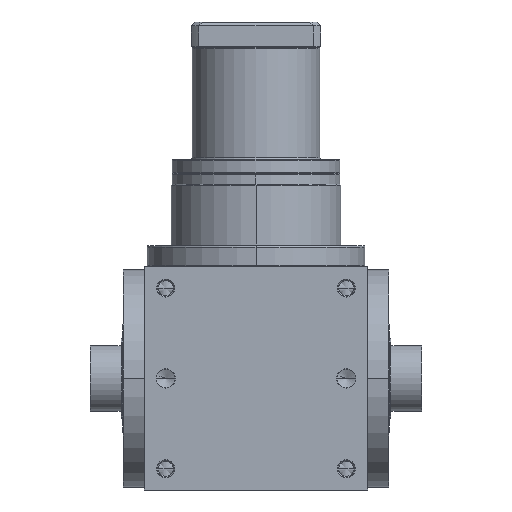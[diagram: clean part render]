
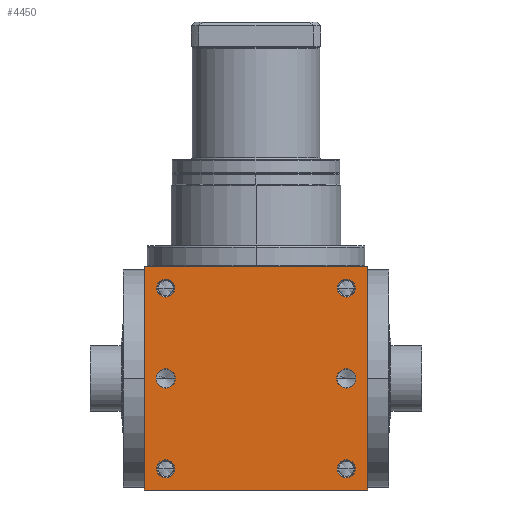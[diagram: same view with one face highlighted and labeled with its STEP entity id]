
A CAD part, front view. The second image highlights one B-rep face of the part: STEP entity #4450.
In plain terms, the highlighted planar face has unit normal (0, -1, 0).
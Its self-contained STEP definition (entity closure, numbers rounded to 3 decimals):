
#5=DIRECTION('',(1.,0.,0.));
#6=VECTOR('',#5,210.);
#7=CARTESIAN_POINT('',(-105.,-105.,-105.));
#8=LINE('',#7,#6);
#155=DIRECTION('',(0.,0.,1.));
#156=VECTOR('',#155,210.);
#157=CARTESIAN_POINT('',(105.,-105.,-105.));
#158=LINE('',#157,#156);
#209=DIRECTION('',(0.,0.,1.));
#210=VECTOR('',#209,210.);
#211=CARTESIAN_POINT('',(-105.,-105.,-105.));
#212=LINE('',#211,#210);
#213=CARTESIAN_POINT('',(85.,-105.,85.));
#214=DIRECTION('',(0.,1.,0.));
#215=DIRECTION('',(-1.,0.,0.));
#216=AXIS2_PLACEMENT_3D('',#213,#214,#215);
#218=CARTESIAN_POINT('',(85.,-105.,85.));
#219=DIRECTION('',(0.,1.,0.));
#220=DIRECTION('',(1.,0.,0.));
#221=AXIS2_PLACEMENT_3D('',#218,#219,#220);
#223=CARTESIAN_POINT('',(-85.,-105.,85.));
#224=DIRECTION('',(0.,1.,0.));
#225=DIRECTION('',(-1.,0.,0.));
#226=AXIS2_PLACEMENT_3D('',#223,#224,#225);
#228=CARTESIAN_POINT('',(-85.,-105.,85.));
#229=DIRECTION('',(0.,1.,0.));
#230=DIRECTION('',(1.,0.,0.));
#231=AXIS2_PLACEMENT_3D('',#228,#229,#230);
#233=CARTESIAN_POINT('',(85.,-105.,-85.));
#234=DIRECTION('',(0.,1.,0.));
#235=DIRECTION('',(-1.,0.,0.));
#236=AXIS2_PLACEMENT_3D('',#233,#234,#235);
#238=CARTESIAN_POINT('',(85.,-105.,-85.));
#239=DIRECTION('',(0.,1.,0.));
#240=DIRECTION('',(1.,0.,0.));
#241=AXIS2_PLACEMENT_3D('',#238,#239,#240);
#243=CARTESIAN_POINT('',(-85.,-105.,-85.));
#244=DIRECTION('',(0.,1.,0.));
#245=DIRECTION('',(-1.,0.,0.));
#246=AXIS2_PLACEMENT_3D('',#243,#244,#245);
#248=CARTESIAN_POINT('',(-85.,-105.,-85.));
#249=DIRECTION('',(0.,1.,0.));
#250=DIRECTION('',(1.,0.,0.));
#251=AXIS2_PLACEMENT_3D('',#248,#249,#250);
#253=CARTESIAN_POINT('',(-85.,-105.,0.));
#254=DIRECTION('',(0.,1.,0.));
#255=DIRECTION('',(1.,0.,0.));
#256=AXIS2_PLACEMENT_3D('',#253,#254,#255);
#258=CARTESIAN_POINT('',(-85.,-105.,0.));
#259=DIRECTION('',(0.,1.,0.));
#260=DIRECTION('',(-1.,0.,0.));
#261=AXIS2_PLACEMENT_3D('',#258,#259,#260);
#263=CARTESIAN_POINT('',(85.,-105.,0.));
#264=DIRECTION('',(0.,1.,0.));
#265=DIRECTION('',(1.,0.,0.));
#266=AXIS2_PLACEMENT_3D('',#263,#264,#265);
#268=CARTESIAN_POINT('',(85.,-105.,0.));
#269=DIRECTION('',(0.,1.,0.));
#270=DIRECTION('',(-1.,0.,0.));
#271=AXIS2_PLACEMENT_3D('',#268,#269,#270);
#285=DIRECTION('',(1.,0.,0.));
#286=VECTOR('',#285,210.);
#287=CARTESIAN_POINT('',(-105.,-105.,105.));
#288=LINE('',#287,#286);
#3588=CARTESIAN_POINT('',(-105.,-105.,-105.));
#3590=VERTEX_POINT('',#3588);
#3591=CARTESIAN_POINT('',(105.,-105.,-105.));
#3592=VERTEX_POINT('',#3591);
#3596=CARTESIAN_POINT('',(-105.,-105.,105.));
#3598=VERTEX_POINT('',#3596);
#3599=CARTESIAN_POINT('',(105.,-105.,105.));
#3600=VERTEX_POINT('',#3599);
#3755=CARTESIAN_POINT('',(76.6,-105.,85.));
#3756=CARTESIAN_POINT('',(93.4,-105.,85.));
#3757=VERTEX_POINT('',#3755);
#3758=VERTEX_POINT('',#3756);
#3763=CARTESIAN_POINT('',(-93.4,-105.,85.));
#3764=CARTESIAN_POINT('',(-76.6,-105.,85.));
#3765=VERTEX_POINT('',#3763);
#3766=VERTEX_POINT('',#3764);
#3771=CARTESIAN_POINT('',(76.6,-105.,-85.));
#3772=CARTESIAN_POINT('',(93.4,-105.,-85.));
#3773=VERTEX_POINT('',#3771);
#3774=VERTEX_POINT('',#3772);
#3779=CARTESIAN_POINT('',(-93.4,-105.,-85.));
#3780=CARTESIAN_POINT('',(-76.6,-105.,-85.));
#3781=VERTEX_POINT('',#3779);
#3782=VERTEX_POINT('',#3780);
#4103=CARTESIAN_POINT('',(-75.95,-105.,0.));
#4104=CARTESIAN_POINT('',(-94.05,-105.,
0.));
#4105=VERTEX_POINT('',#4103);
#4106=VERTEX_POINT('',#4104);
#4111=CARTESIAN_POINT('',(94.05,-105.,0.));
#4112=CARTESIAN_POINT('',(75.95,-105.,0.));
#4113=VERTEX_POINT('',#4111);
#4114=VERTEX_POINT('',#4112);
#4402=CARTESIAN_POINT('',(-105.,-105.,-105.));
#4403=DIRECTION('',(0.,-1.,0.));
#4404=DIRECTION('',(1.,0.,0.));
#4405=AXIS2_PLACEMENT_3D('',#4402,#4403,#4404);
#4406=PLANE('',#4405);
#4407=ORIENTED_EDGE('',*,*,#4242,.F.);
#4408=ORIENTED_EDGE('',*,*,#4285,.T.);
#4410=ORIENTED_EDGE('',*,*,#4409,.T.);
#4411=ORIENTED_EDGE('',*,*,#4364,.F.);
#4412=EDGE_LOOP('',(#4407,#4408,#4410,#4411));
#4413=FACE_OUTER_BOUND('',#4412,.F.);
#4415=ORIENTED_EDGE('',*,*,#4414,.F.);
#4417=ORIENTED_EDGE('',*,*,#4416,.F.);
#4418=EDGE_LOOP('',(#4415,#4417));
#4419=FACE_BOUND('',#4418,.F.);
#4421=ORIENTED_EDGE('',*,*,#4420,.F.);
#4423=ORIENTED_EDGE('',*,*,#4422,.F.);
#4424=EDGE_LOOP('',(#4421,#4423));
#4425=FACE_BOUND('',#4424,.F.);
#4427=ORIENTED_EDGE('',*,*,#4426,.F.);
#4429=ORIENTED_EDGE('',*,*,#4428,.F.);
#4430=EDGE_LOOP('',(#4427,#4429));
#4431=FACE_BOUND('',#4430,.F.);
#4433=ORIENTED_EDGE('',*,*,#4432,.F.);
#4435=ORIENTED_EDGE('',*,*,#4434,.F.);
#4436=EDGE_LOOP('',(#4433,#4435));
#4437=FACE_BOUND('',#4436,.F.);
#4439=ORIENTED_EDGE('',*,*,#4438,.F.);
#4441=ORIENTED_EDGE('',*,*,#4440,.F.);
#4442=EDGE_LOOP('',(#4439,#4441));
#4443=FACE_BOUND('',#4442,.F.);
#4445=ORIENTED_EDGE('',*,*,#4444,.F.);
#4447=ORIENTED_EDGE('',*,*,#4446,.F.);
#4448=EDGE_LOOP('',(#4445,#4447));
#4449=FACE_BOUND('',#4448,.F.);
#4450=ADVANCED_FACE('',(#4413,#4419,#4425,#4431,#4437,#4443,#4449),#4406,.T.);
#217=CIRCLE('',#216,8.4);
#222=CIRCLE('',#221,8.4);
#227=CIRCLE('',#226,8.4);
#232=CIRCLE('',#231,8.4);
#237=CIRCLE('',#236,8.4);
#242=CIRCLE('',#241,8.4);
#247=CIRCLE('',#246,8.4);
#252=CIRCLE('',#251,8.4);
#257=CIRCLE('',#256,9.05);
#262=CIRCLE('',#261,9.05);
#267=CIRCLE('',#266,9.05);
#272=CIRCLE('',#271,9.05);
#4242=EDGE_CURVE('',#3590,#3592,#8,.T.);
#4285=EDGE_CURVE('',#3590,#3598,#212,.T.);
#4364=EDGE_CURVE('',#3592,#3600,#158,.T.);
#4409=EDGE_CURVE('',#3598,#3600,#288,.T.);
#4414=EDGE_CURVE('',#3757,#3758,#217,.T.);
#4416=EDGE_CURVE('',#3758,#3757,#222,.T.);
#4420=EDGE_CURVE('',#3765,#3766,#227,.T.);
#4422=EDGE_CURVE('',#3766,#3765,#232,.T.);
#4426=EDGE_CURVE('',#3773,#3774,#237,.T.);
#4428=EDGE_CURVE('',#3774,#3773,#242,.T.);
#4432=EDGE_CURVE('',#3781,#3782,#247,.T.);
#4434=EDGE_CURVE('',#3782,#3781,#252,.T.);
#4438=EDGE_CURVE('',#4105,#4106,#257,.T.);
#4440=EDGE_CURVE('',#4106,#4105,#262,.T.);
#4444=EDGE_CURVE('',#4113,#4114,#267,.T.);
#4446=EDGE_CURVE('',#4114,#4113,#272,.T.);
